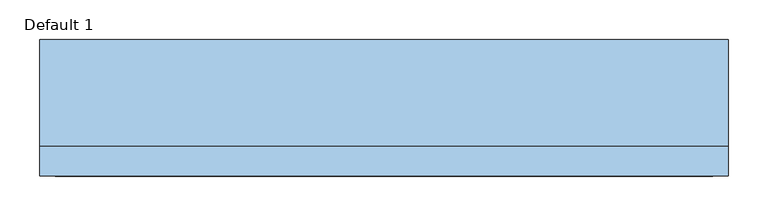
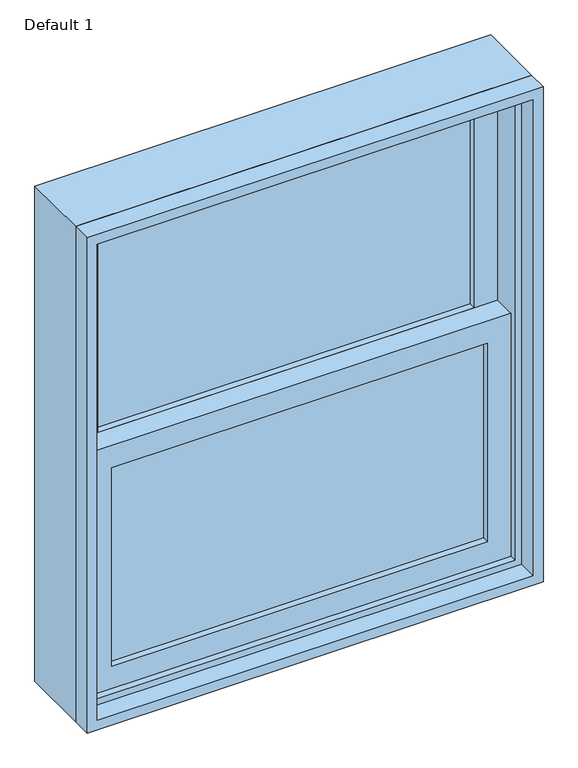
"""IFC4 building model written with IfcOpenShell, lengths in millimetres: window geometry, Planitar-Double-Hung-Single : Default 1."""

from ifc_helpers import new_model, si_unit, frame, origin, place, context, project, spatial, polyline, outline, extrude, source, transform, mapped, element, save


def default_1_b5ca020e(model_context):
    return source(origin(), model_context, "Body", "SweptSolid", [
        extrude(outline(polyline([(355.6, 6.35), (355.6, 0.0), (-355.6, 0.0), (-355.6, 6.35), (355.6, 6.35)])), frame((0.0, 0.0, 990.6), z_axis=(0.0, 0.0, 1.0), x_axis=(1.0, 0.0, 0.0)), (0.0, 0.0, 1.0), 396.875),
        extrude(outline(polyline([(-355.6, -6.35), (355.6, -6.35), (355.6, -12.7), (-355.6, -12.7), (-355.6, -6.35)])), frame((0.0, 0.0, 990.6), z_axis=(0.0, 0.0, 1.0), x_axis=(1.0, 0.0, 0.0)), (0.0, 0.0, 1.0), 396.875),
        extrude(outline(polyline([(355.6, 50.8), (355.6, 44.45), (-355.6, 44.45), (-355.6, 50.8), (355.6, 50.8)])), frame((0.0, 0.0, 1431.925), z_axis=(0.0, 0.0, 1.0), x_axis=(1.0, 0.0, 0.0)), (0.0, 0.0, 1.0), 396.875),
        extrude(outline(polyline([(-355.6, 38.1), (355.6, 38.1), (355.6, 31.75), (-355.6, 31.75), (-355.6, 38.1)])), frame((0.0, 0.0, 1431.925), z_axis=(0.0, 0.0, 1.0), x_axis=(1.0, 0.0, 0.0)), (0.0, 0.0, 1.0), 396.875),
        extrude(outline(polyline([(1431.925, -400.05), (946.15, -400.05), (946.15, 400.05), (1431.925, 400.05), (1431.925, -400.05)]), holes=[polyline([(1387.475, 355.6), (990.6, 355.6), (990.6, -355.6), (1387.475, -355.6), (1387.475, 355.6)])]), frame((0.0, -25.4, 0.0), z_axis=(0.0, 1.0, 0.0), x_axis=(0.0, 0.0, 1.0)), (0.0, 0.0, 1.0), 44.45),
        extrude(outline(polyline([(1873.25, -400.05), (1387.475, -400.05), (1387.475, 400.05), (1873.25, 400.05), (1873.25, -400.05)]), holes=[polyline([(1828.8, 355.6), (1431.925, 355.6), (1431.925, -355.6), (1828.8, -355.6), (1828.8, 355.6)])]), frame((0.0, 19.05, 0.0), z_axis=(0.0, 1.0, 0.0), x_axis=(0.0, 0.0, 1.0)), (0.0, 0.0, 1.0), 44.45),
        extrude(outline(polyline([(1905.0, -431.8), (914.4, -431.8), (914.4, 431.8), (1905.0, 431.8), (1905.0, -431.8)]), holes=[polyline([(1873.25, 400.05), (946.15, 400.05), (946.15, -400.05), (1873.25, -400.05), (1873.25, 400.05)])]), frame((0.0, -38.1, 0.0), z_axis=(0.0, 1.0, 0.0), x_axis=(0.0, 0.0, 1.0)), (0.0, 0.0, 1.0), 133.35),
        extrude(outline(polyline([(1905.0, 431.8), (1905.0, -431.8), (914.4, -431.8), (914.4, 431.8), (1905.0, 431.8)]), holes=[polyline([(1885.95, 412.75), (933.45, 412.75), (933.45, -412.75), (1885.95, -412.75), (1885.95, 412.75)])]), frame((0.0, -76.2, 0.0), z_axis=(0.0, 1.0, 0.0), x_axis=(0.0, 0.0, 1.0)), (0.0, 0.0, 1.0), 38.1),
    ])


if __name__ == "__main__":
    model = new_model("IFC4")
    model_context = context("Model", 3, world=origin())
    ifc_project = project(units=[si_unit("LENGTHUNIT", "METRE", prefix="MILLI")], contexts=[model_context])
    site = spatial("IfcSite", under=ifc_project)
    building = spatial("IfcBuilding", under=site)
    placement = place(None, origin())
    default_1_shape = default_1_b5ca020e(model_context)
    element("IfcWindow", 1, ObjectType="Planitar-Double-Hung-Single : Default 1", at=placement, inside=building, context=model_context, shape_type="MappedRepresentation", body=[
        mapped(default_1_shape, transform((0.0, 0.0, 0.0), x_axis=(1.0, 0.0, 0.0), y_axis=(0.0, 1.0, 0.0), z_axis=(0.0, 0.0, 1.0))),
    ])
    save(model, "model.ifc")
